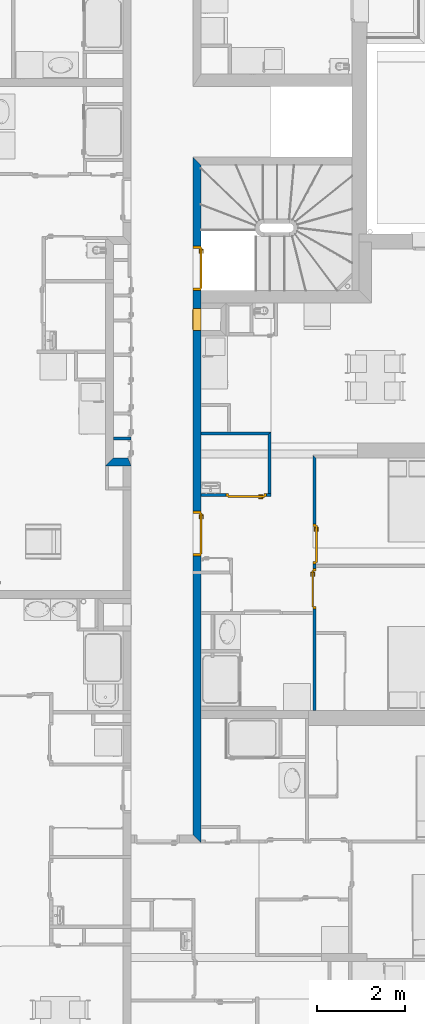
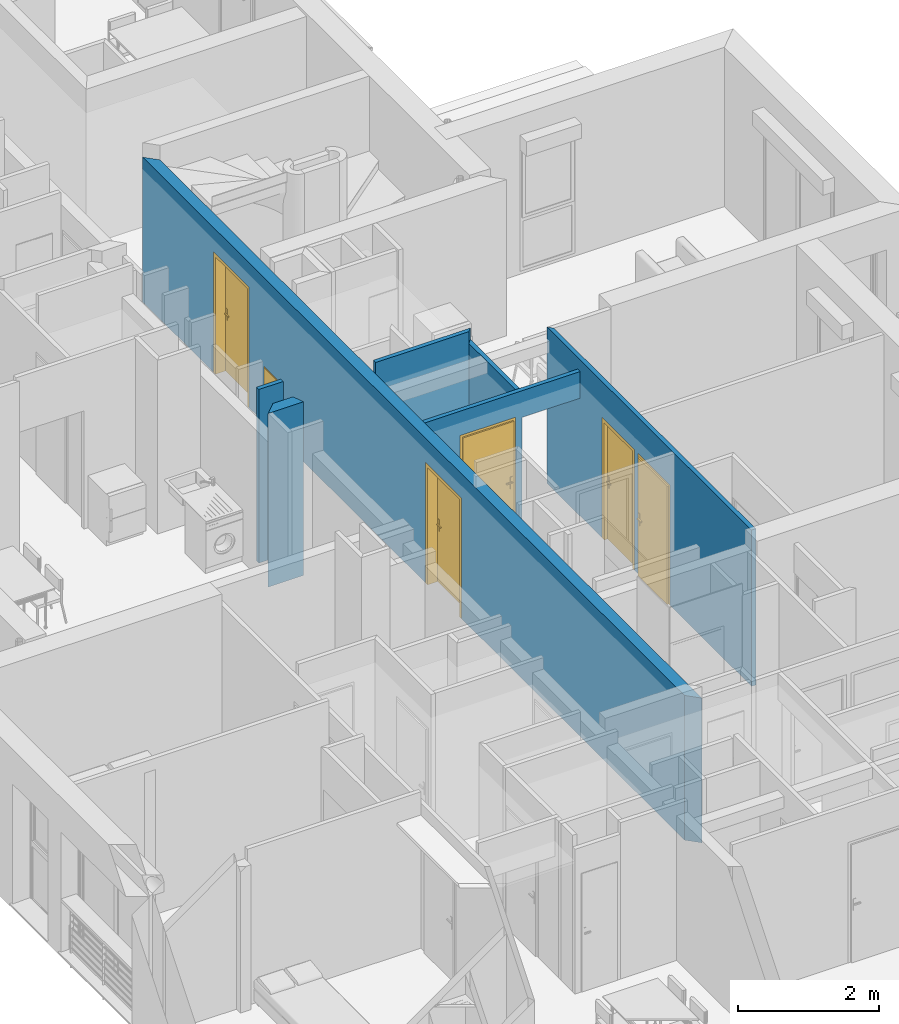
# One storey, part 22 of 164: 7 walls, 6 doors, 7 openings.
"""IFC2X3 building model written with IfcOpenShell, lengths in millimetres."""

from ifc_helpers import new_model, entity, si_unit, converted_unit, derived_unit, money_unit, direction, frame, origin_with_axes, origin_2d_with_axis, place, context, subcontext, project, spatial, polyline, rectangle, outline, extrude, faceted_brep, source, transform, mapped, material, layer, layer_set, layer_usage, type_object, element, fill, save


model = new_model("IFC2X3")

# Units and contexts
model_context = context("Model", 3, precision=0.01, world=origin_with_axes(), true_north=direction((0.0, 1.0)))
body_context = subcontext(model_context, "Body", "Model", "MODEL_VIEW")
ifc_project = project(units=[si_unit("LENGTHUNIT", "METRE", prefix="MILLI"), si_unit("AREAUNIT", "SQUARE_METRE"), si_unit("VOLUMEUNIT", "CUBIC_METRE"), converted_unit("PLANEANGLEUNIT", "DEGREE", entity("IfcPlaneAngleMeasure", 0.0174532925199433), si_unit("PLANEANGLEUNIT", "RADIAN"), dimensions=[0, 0, 0, 0, 0, 0, 0]), money_unit("USD"), converted_unit("TIMEUNIT", "Year", entity("IfcTimeMeasure", 31557600.0), si_unit("TIMEUNIT", "SECOND"), dimensions=[0, 0, 1, 0, 0, 0, 0]), si_unit("MASSUNIT", "GRAM", prefix="KILO"), si_unit("THERMODYNAMICTEMPERATUREUNIT", "DEGREE_CELSIUS"), si_unit("LUMINOUSINTENSITYUNIT", "LUMEN"), si_unit("ENERGYUNIT", "JOULE", prefix="MEGA"), derived_unit("THERMALCONDUCTANCEUNIT", [(si_unit("POWERUNIT", "WATT"), 1), (si_unit("LENGTHUNIT", "METRE"), -1), (si_unit("THERMODYNAMICTEMPERATUREUNIT", "KELVIN"), -1)]), derived_unit("SPECIFICHEATCAPACITYUNIT", [(si_unit("ENERGYUNIT", "JOULE"), 1), (si_unit("MASSUNIT", "GRAM", prefix="KILO"), -1), (si_unit("THERMODYNAMICTEMPERATUREUNIT", "KELVIN"), -1)]), derived_unit("MASSDENSITYUNIT", [(si_unit("MASSUNIT", "GRAM", prefix="KILO"), 1), (si_unit("VOLUMEUNIT", "CUBIC_METRE"), -1)])], contexts=[model_context])

# Site, building, storey
site_placement = place(None, origin_with_axes())
site = spatial("IfcSite", under=ifc_project, at=site_placement, Name="Site", CompositionType="ELEMENT")
building_placement = place(site_placement, origin_with_axes())
building = spatial("IfcBuilding", under=site, at=building_placement, Name="Bâtiment", CompositionType="ELEMENT")
storey_placement = place(building_placement, frame((0.0, 0.0, 5750.0), z_axis=(0.0, 0.0, 1.0), x_axis=(1.0, 0.0, 0.0)))
storey = spatial("IfcBuildingStorey", under=building, at=storey_placement, Name="Etage1", CompositionType="ELEMENT", Elevation=5750.0)

# Wall
ifc_material_1 = material(Name="Parpaing 314940890")
ifc_layer_1 = layer(ifc_material_1, 180.0, ventilated="UNKNOWN")
ifc_layer_set_1 = layer_set([ifc_layer_1], Name="Beton  18 0018356637")
ifc_layer_usage_1 = layer_usage(ifc_layer_set_1, "AXIS2", "NEGATIVE", 0.0)
wall_type_1 = type_object("IfcWallType", Name="Beton  18 0018356637 180", PredefinedType="NOTDEFINED")
wall_1_placement = place(storey_placement, frame((2224312.398997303, -641196.7399761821, 0.0), z_axis=(0.0, 0.0, 1.0), x_axis=(-0.9999999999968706, 2.501772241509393e-06, 0.0)))
element("IfcWallStandardCase", 1, at=wall_1_placement, inside=storey, type_object=wall_type_1, material=ifc_layer_usage_1, Name="Mur-142", context=body_context, shape_type="SweptSolid", body=[
    extrude(outline(polyline([(70.00008822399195, -179.9999999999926), (399.9993267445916, -179.9999999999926), (579.9988764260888, 0.0), (-0.000310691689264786, 0.0), (70.00008822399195, -179.9999999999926)])), origin_with_axes(), (0.0, 0.0, 1.0), 3000.0),
])

# Wall, openings, doors
ifc_layer_usage_2 = layer_usage(ifc_layer_set_1, "AXIS2", "POSITIVE", 0.0)
wall_2_placement = place(storey_placement, frame((2225712.318356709, -634393.514679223, 0.0), z_axis=(0.0, 0.0, 1.0), x_axis=(0.0, -1.0, 0.0)))
wall_2 = element("IfcWallStandardCase", 2, at=wall_2_placement, inside=storey, type_object=wall_type_1, material=ifc_layer_usage_2, Name="Mur-143", context=body_context, shape_type="SweptSolid", body=[
    extrude(outline(polyline([(-180.000000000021, 0.0), (15156.07795660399, 0.0), (15336.077956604, 179.99999999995), (0.0, 179.99999999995), (-180.000000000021, 0.0)])), origin_with_axes(), (0.0, 0.0, 1.0), 2500.000000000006),
])
opening_1_placement = place(wall_2_placement, frame((8334.59739808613, 0.0, 0.0), z_axis=(0.0, 0.0, 1.0), x_axis=(1.0, 0.0, 0.0)))
opening_1 = element("IfcOpeningElement", 3, at=opening_1_placement, cuts=wall_2, Name="Por-299", context=body_context, shape_type="SweptSolid", body=[
    extrude(rectangle(XDim=1010.00001192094, YDim=2080.0, at=origin_2d_with_axis()), frame((5.960473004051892e-06, -179.99999999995, 1040.0), z_axis=(0.0, 1.0, 0.0), x_axis=(1.0, 0.0, 0.0)), (0.0, 0.0, 1.0), 360.0),
])
opening_2_placement = place(wall_2_placement, frame((2332.186197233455, 2.273736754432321e-10, 0.0), z_axis=(0.0, 0.0, 1.0), x_axis=(1.0, 0.0, 0.0)))
opening_2 = element("IfcOpeningElement", 4, at=opening_2_placement, cuts=wall_2, Name="Por-295", context=body_context, shape_type="SweptSolid", body=[
    extrude(rectangle(XDim=1010.00001192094, YDim=2080.0, at=origin_2d_with_axis()), frame((5.960473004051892e-06, -179.99999999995, 1040.0), z_axis=(0.0, 1.0, 0.0), x_axis=(1.0, 0.0, 0.0)), (0.0, 0.0, 1.0), 360.0),
])
opening_3_placement = place(wall_2_placement, frame((3494.863080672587, 1.13686837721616e-10, 299.9999999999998), z_axis=(0.0, 0.0, 1.0), x_axis=(1.0, 0.0, 0.0)))
opening_3 = element("IfcOpeningElement", 5, at=opening_3_placement, cuts=wall_2, Name="Por-236", context=body_context, shape_type="SweptSolid", body=[
    extrude(rectangle(XDim=489.9999985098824, YDim=669.9999999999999, at=origin_2d_with_axis()), frame((-7.450609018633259e-07, 179.99999999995, 334.9999999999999), z_axis=(0.0, 1.0, 0.0), x_axis=(1.0, 0.0, 0.0)), (0.0, 0.0, -1.0), 360.0),
])
door_style = type_object("IfcDoorStyle", Name="Porte_1v", ConstructionType="NOTDEFINED", OperationType="NOTDEFINED", ParameterTakesPrecedence=False, Sizeable=False)
shared_shape_1 = source(origin_with_axes(), body_context, "Body", "Brep", [
    faceted_brep([(504.9999999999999, 0.0, 0.0), (464.9999999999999, 0.0, 0.0), (464.9999999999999, 0.0, 2040.0), (-464.9999999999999, 0.0, 2040.0), (-464.9999999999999, 0.0, 0.0), (-504.9999999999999, 0.0, 0.0), (-504.9999999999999, 0.0, 2080.0), (504.9999999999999, 0.0, 2080.0), (504.9999999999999, -180.0, 0.0), (449.9999999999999, -180.0, 0.0), (449.9999999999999, -15.0, 0.0), (464.9999999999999, -15.0, 0.0), (464.9999999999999, -15.0, 2040.0), (-464.9999999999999, -15.0, 2040.0), (-464.9999999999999, -15.0, 0.0), (-449.9999999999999, -15.0, 0.0), (-449.9999999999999, -180.0, 0.0), (-504.9999999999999, -180.0, 0.0), (-504.9999999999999, -180.0, 2080.0), (504.9999999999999, -180.0, 2080.0), (-449.9999999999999, -180.0, 2025.0), (449.9999999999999, -180.0, 2025.0), (449.9999999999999, -15.0, 2025.0), (-449.9999999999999, -15.0, 2025.0)], [[[0, 1, 2, 3, 4, 5, 6, 7]], [[0, 8, 9, 10, 11, 1]], [[1, 11, 12, 2]], [[2, 12, 13, 3]], [[3, 13, 14, 4]], [[5, 4, 14, 15, 16, 17]], [[18, 6, 5, 17]], [[19, 7, 6, 18]], [[8, 0, 7, 19]], [[9, 8, 19, 18, 17, 16, 20, 21]], [[10, 9, 21, 22]], [[11, 10, 22, 23, 15, 14, 13, 12]], [[23, 20, 16, 15]], [[22, 21, 20, 23]]]),
    faceted_brep([(-399.9999999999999, -15.0, 900.0), (-439.9999999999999, -15.0, 900.0), (-439.9999999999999, -15.0, 1100.0), (-399.9999999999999, -15.0, 1100.0), (-399.9999999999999, -25.0, 900.0), (-439.9999999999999, -25.0, 900.0), (-439.9999999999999, -25.0, 1100.0), (-399.9999999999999, -25.0, 1100.0)], [[[0, 1, 2, 3]], [[1, 0, 4, 5]], [[2, 1, 5, 6]], [[3, 2, 6, 7]], [[0, 3, 7, 4]], [[5, 4, 7, 6]]]),
    faceted_brep([(-329.9999999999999, -25.0, 1000.0), (-429.9999999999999, -25.0, 1000.0), (-429.9999999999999, -25.0, 1020.0), (-329.9999999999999, -25.0, 1020.0), (-329.9999999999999, -44.99999999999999, 1000.0), (-429.9999999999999, -44.99999999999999, 1000.0), (-429.9999999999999, -44.99999999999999, 1020.0), (-329.9999999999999, -44.99999999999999, 1020.0)], [[[0, 1, 2, 3]], [[1, 0, 4, 5]], [[2, 1, 5, 6]], [[3, 2, 6, 7]], [[0, 3, 7, 4]], [[5, 4, 7, 6]]]),
    faceted_brep([(-399.9999999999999, 34.99999999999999, 900.0), (-439.9999999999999, 34.99999999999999, 900.0), (-439.9999999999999, 34.99999999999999, 1100.0), (-399.9999999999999, 34.99999999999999, 1100.0), (-399.9999999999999, 25.0, 900.0), (-439.9999999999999, 25.0, 900.0), (-439.9999999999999, 25.0, 1100.0), (-399.9999999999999, 25.0, 1100.0)], [[[0, 1, 2, 3]], [[1, 0, 4, 5]], [[2, 1, 5, 6]], [[3, 2, 6, 7]], [[0, 3, 7, 4]], [[5, 4, 7, 6]]]),
    faceted_brep([(-329.9999999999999, 55.0, 1000.0), (-429.9999999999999, 55.0, 1000.0), (-429.9999999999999, 55.0, 1020.0), (-329.9999999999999, 55.0, 1020.0), (-329.9999999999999, 34.99999999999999, 1000.0), (-429.9999999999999, 34.99999999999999, 1000.0), (-429.9999999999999, 34.99999999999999, 1020.0), (-329.9999999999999, 34.99999999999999, 1020.0)], [[[0, 1, 2, 3]], [[1, 0, 4, 5]], [[2, 1, 5, 6]], [[3, 2, 6, 7]], [[0, 3, 7, 4]], [[5, 4, 7, 6]]]),
    faceted_brep([(-464.9999999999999, 25.0, 0.0), (464.9999999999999, 25.0, 0.0), (464.9999999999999, -15.0, 0.0), (-464.9999999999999, -15.0, 0.0), (-464.9999999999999, 25.0, 2040.0), (464.9999999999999, 25.0, 2040.0), (464.9999999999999, -15.0, 2040.0), (-464.9999999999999, -15.0, 2040.0)], [[[0, 1, 2, 3]], [[0, 4, 5, 1]], [[1, 5, 6, 2]], [[3, 2, 6, 7]], [[4, 0, 3, 7]], [[5, 4, 7, 6]]]),
])
door_1_placement = place(opening_1_placement, frame((-464.9999999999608, 0.0, 0.0), z_axis=(0.0, 0.0, 1.0), x_axis=(1.0, 0.0, 0.0)))
door_1 = element("IfcDoor", 6, at=door_1_placement, inside=storey, type_object=door_style, Name="Por-299", OverallHeight=2040.0, OverallWidth=930.0, context=body_context, shape_type="MappedRepresentation", body=[
    mapped(shared_shape_1, transform((465.0000000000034, 180.0000000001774, 0.0))),
])
fill(opening_1, door_1)
door_2_placement = place(opening_2_placement, frame((-465.0000000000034, 2.273736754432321e-10, 0.0), z_axis=(0.0, 0.0, 1.0), x_axis=(1.0, 0.0, 0.0)))
door_2 = element("IfcDoor", 7, at=door_2_placement, inside=storey, type_object=door_style, Name="Por-295", OverallHeight=2040.0, OverallWidth=930.0, context=body_context, shape_type="MappedRepresentation", body=[
    mapped(shared_shape_1, transform((465.0000000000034, 180.0000000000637, 0.0))),
])
fill(opening_2, door_2)
shared_shape_2 = source(origin_with_axes(), body_context, "Body", "Brep", [
    faceted_brep([(-245.0, 0.0, 0.0), (-245.0, 0.0, 670.0), (245.0, 0.0, 670.0), (245.0, 0.0, 0.0), (225.0, 0.0, 0.0), (225.0, 0.0, 650.0), (-225.0, 0.0, 650.0), (-225.0, 0.0, 0.0), (-245.0, -180.0, 0.0), (-245.0, -180.0, 670.0), (245.0, -180.0, 670.0), (245.0, -180.0, 0.0), (210.0, -180.0, 0.0), (210.0, -15.0, 0.0), (225.0, -15.0, 0.0), (225.0, -15.0, 650.0), (-225.0, -15.0, 650.0), (-225.0, -15.0, 0.0), (-210.0, -15.0, 0.0), (-210.0, -180.0, 0.0), (-210.0, -180.0, 635.0), (210.0, -180.0, 635.0), (210.0, -15.0, 635.0), (-210.0, -15.0, 635.0)], [[[0, 1, 2, 3, 4, 5, 6, 7]], [[8, 9, 1, 0]], [[9, 10, 2, 1]], [[10, 11, 3, 2]], [[3, 11, 12, 13, 14, 4]], [[5, 4, 14, 15]], [[6, 5, 15, 16]], [[7, 6, 16, 17]], [[0, 7, 17, 18, 19, 8]], [[19, 20, 21, 12, 11, 10, 9, 8]], [[22, 13, 12, 21]], [[17, 16, 15, 14, 13, 22, 23, 18]], [[18, 23, 20, 19]], [[23, 22, 21, 20]]]),
    faceted_brep([(225.0, 5.000000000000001, 0.0), (225.0, -15.0, 0.0), (-225.0, -15.0, 0.0), (-225.0, 5.000000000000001, 0.0), (225.0, 5.000000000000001, 650.0), (225.0, -15.0, 650.0), (-225.0, -15.0, 650.0), (-225.0, 5.000000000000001, 650.0)], [[[0, 1, 2, 3]], [[4, 5, 1, 0]], [[1, 5, 6, 2]], [[3, 2, 6, 7]], [[0, 3, 7, 4]], [[7, 6, 5, 4]]]),
])
door_3_placement = place(opening_3_placement, frame((224.9999999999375, 1.13686837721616e-10, 0.0), z_axis=(0.0, 0.0, 1.0), x_axis=(-1.0, 0.0, 0.0)))
door_3 = element("IfcDoor", 8, at=door_3_placement, inside=storey, type_object=door_style, Name="Por-236", OverallHeight=650.0, OverallWidth=450.0, context=body_context, shape_type="MappedRepresentation", body=[
    mapped(shared_shape_2, transform((224.9999999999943, -1.13686837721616e-10, 0.0))),
])
fill(opening_3, door_3)

# Wall
ifc_material_2 = material(Name="Hachure solide 268963992")
ifc_layer_2 = layer(ifc_material_2, 70.0, ventilated="UNKNOWN")
ifc_layer_set_2 = layer_set([ifc_layer_2], Name="Cloison 70 0826278243")
ifc_layer_usage_3 = layer_usage(ifc_layer_set_2, "AXIS2", "NEGATIVE", 0.0)
wall_type_2 = type_object("IfcWallType", Name="Cloison 70 0826278243 70", PredefinedType="NOTDEFINED")
wall_3_placement = place(storey_placement, frame((2223732.399920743, -640549.3889911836, 0.0), z_axis=(0.0, 0.0, 1.0), x_axis=(1.0, 0.0, 0.0)))
element("IfcWallStandardCase", 9, at=wall_3_placement, inside=storey, type_object=wall_type_2, material=ifc_layer_usage_3, Name="Mur-121", context=body_context, shape_type="SweptSolid", body=[
    extrude(outline(polyline([(180.0002001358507, -69.99999999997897), (580.0522801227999, -69.99999999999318), (580.0522801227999, 0.0), (180.0002001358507, 0.0), (180.0002001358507, -69.99999999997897)])), origin_with_axes(), (0.0, 0.0, 1.0), 3000.0),
])

# Wall, openings, doors
ifc_layer_usage_4 = layer_usage(ifc_layer_set_2, "AXIS2", "POSITIVE", -70.0)
wall_4_placement = place(storey_placement, frame((2228430.650386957, -646738.4413036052, 0.0), z_axis=(0.0, 0.0, 1.0), x_axis=(0.0, 1.0, 0.0)))
wall_4 = element("IfcWallStandardCase", 10, at=wall_4_placement, inside=storey, type_object=wall_type_2, material=ifc_layer_usage_4, Name="Mur-149", context=body_context, shape_type="SweptSolid", body=[
    extrude(outline(polyline([(0.0, -70.00000000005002), (5713.115765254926, -70.00000000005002), (5783.115765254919, 0.0), (0.0, 0.0), (0.0, -70.00000000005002)])), origin_with_axes(), (0.0, 0.0, 1.0), 2700.0),
])
opening_4_placement = place(wall_4_placement, frame((2760.067166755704, 2.273736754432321e-10, 0.0), z_axis=(0.0, 0.0, 1.0), x_axis=(1.0, 0.0, 0.0)))
opening_4 = element("IfcOpeningElement", 11, at=opening_4_placement, cuts=wall_4, Name="Por-275", context=body_context, shape_type="SweptSolid", body=[
    extrude(rectangle(XDim=910.0, YDim=2080.0, at=origin_2d_with_axis()), frame((0.0, -70.00000000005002, 1040.0), z_axis=(0.0, -1.0, 0.0), x_axis=(-1.0, 0.0, 0.0)), (0.0, 0.0, -1.0), 140.0),
])
opening_5_placement = place(wall_4_placement, frame((3770.831341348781, 2.273736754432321e-10, 0.0), z_axis=(0.0, 0.0, 1.0), x_axis=(1.0, 0.0, 0.0)))
opening_5 = element("IfcOpeningElement", 12, at=opening_5_placement, cuts=wall_4, Name="Por-276", context=body_context, shape_type="SweptSolid", body=[
    extrude(rectangle(XDim=910.0, YDim=2080.0, at=origin_2d_with_axis()), frame((0.0, 70.00000000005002, 1040.0), z_axis=(0.0, -1.0, 0.0), x_axis=(-1.0, 0.0, 0.0)), (0.0, 0.0, 1.0), 140.0),
])
shared_shape_3 = source(origin_with_axes(), body_context, "Body", "Brep", [
    faceted_brep([(455.0, 0.0, 0.0), (415.0000000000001, 0.0, 0.0), (415.0000000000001, 0.0, 2040.0), (-415.0000000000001, 0.0, 2040.0), (-415.0000000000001, 0.0, 0.0), (-455.0, 0.0, 0.0), (-455.0, 0.0, 2080.0), (455.0, 0.0, 2080.0), (455.0, -70.0, 0.0), (400.0, -70.0, 0.0), (400.0, -15.0, 0.0), (415.0000000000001, -15.0, 0.0), (415.0000000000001, -15.0, 2040.0), (-415.0000000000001, -15.0, 2040.0), (-415.0000000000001, -15.0, 0.0), (-400.0, -15.0, 0.0), (-400.0, -70.0, 0.0), (-455.0, -70.0, 0.0), (-455.0, -70.0, 2080.0), (455.0, -70.0, 2080.0), (-400.0, -70.0, 2025.0), (400.0, -70.0, 2025.0), (400.0, -15.0, 2025.0), (-400.0, -15.0, 2025.0)], [[[0, 1, 2, 3, 4, 5, 6, 7]], [[0, 8, 9, 10, 11, 1]], [[1, 11, 12, 2]], [[2, 12, 13, 3]], [[3, 13, 14, 4]], [[5, 4, 14, 15, 16, 17]], [[18, 6, 5, 17]], [[19, 7, 6, 18]], [[8, 0, 7, 19]], [[9, 8, 19, 18, 17, 16, 20, 21]], [[10, 9, 21, 22]], [[11, 10, 22, 23, 15, 14, 13, 12]], [[23, 20, 16, 15]], [[22, 21, 20, 23]]]),
    faceted_brep([(-350.0000000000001, -15.0, 900.0), (-390.0, -15.0, 900.0), (-390.0, -15.0, 1100.0), (-350.0000000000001, -15.0, 1100.0), (-350.0000000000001, -25.0, 900.0), (-390.0, -25.0, 900.0), (-390.0, -25.0, 1100.0), (-350.0000000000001, -25.0, 1100.0)], [[[0, 1, 2, 3]], [[1, 0, 4, 5]], [[2, 1, 5, 6]], [[3, 2, 6, 7]], [[0, 3, 7, 4]], [[5, 4, 7, 6]]]),
    faceted_brep([(-280.0, -25.0, 1000.0), (-380.0, -25.0, 1000.0), (-380.0, -25.0, 1020.0), (-280.0, -25.0, 1020.0), (-280.0, -45.0, 1000.0), (-380.0, -45.0, 1000.0), (-380.0, -45.0, 1020.0), (-280.0, -45.0, 1020.0)], [[[0, 1, 2, 3]], [[1, 0, 4, 5]], [[2, 1, 5, 6]], [[3, 2, 6, 7]], [[0, 3, 7, 4]], [[5, 4, 7, 6]]]),
    faceted_brep([(-350.0000000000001, 35.0, 900.0), (-390.0, 35.0, 900.0), (-390.0, 35.0, 1100.0), (-350.0000000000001, 35.0, 1100.0), (-350.0000000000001, 25.0, 900.0), (-390.0, 25.0, 900.0), (-390.0, 25.0, 1100.0), (-350.0000000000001, 25.0, 1100.0)], [[[0, 1, 2, 3]], [[1, 0, 4, 5]], [[2, 1, 5, 6]], [[3, 2, 6, 7]], [[0, 3, 7, 4]], [[5, 4, 7, 6]]]),
    faceted_brep([(-280.0, 55.00000000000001, 1000.0), (-380.0, 55.00000000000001, 1000.0), (-380.0, 55.00000000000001, 1020.0), (-280.0, 55.00000000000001, 1020.0), (-280.0, 35.0, 1000.0), (-380.0, 35.0, 1000.0), (-380.0, 35.0, 1020.0), (-280.0, 35.0, 1020.0)], [[[0, 1, 2, 3]], [[1, 0, 4, 5]], [[2, 1, 5, 6]], [[3, 2, 6, 7]], [[0, 3, 7, 4]], [[5, 4, 7, 6]]]),
    faceted_brep([(-415.0000000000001, 25.0, 0.0), (415.0000000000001, 25.0, 0.0), (415.0000000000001, -15.0, 0.0), (-415.0000000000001, -15.0, 0.0), (-415.0000000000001, 25.0, 2040.0), (415.0000000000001, 25.0, 2040.0), (415.0000000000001, -15.0, 2040.0), (-415.0000000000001, -15.0, 2040.0)], [[[0, 1, 2, 3]], [[0, 4, 5, 1]], [[1, 5, 6, 2]], [[3, 2, 6, 7]], [[4, 0, 3, 7]], [[5, 4, 7, 6]]]),
])
door_4_placement = place(opening_5_placement, frame((415.0000000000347, 2.273736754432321e-10, 0.0), z_axis=(0.0, 0.0, 1.0), x_axis=(-1.0, 0.0, 0.0)))
door_4 = element("IfcDoor", 13, at=door_4_placement, inside=storey, type_object=door_style, Name="Por-276", OverallHeight=2040.0, OverallWidth=830.0, context=body_context, shape_type="MappedRepresentation", body=[
    mapped(shared_shape_3, transform((415.0000000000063, 70.00000000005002, 0.0))),
])
fill(opening_5, door_4)
shared_shape_4 = source(origin_with_axes(), body_context, "Body", "Brep", [
    faceted_brep([(-454.9999999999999, 0.0, 0.0), (-454.9999999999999, 0.0, 2080.0), (454.9999999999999, 0.0, 2080.0), (454.9999999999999, 0.0, 0.0), (414.9999999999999, 0.0, 0.0), (414.9999999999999, 0.0, 2040.0), (-414.9999999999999, 0.0, 2040.0), (-414.9999999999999, 0.0, 0.0), (-454.9999999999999, -69.99999999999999, 0.0), (-454.9999999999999, -69.99999999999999, 2080.0), (454.9999999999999, -69.99999999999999, 2080.0), (454.9999999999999, -69.99999999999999, 0.0), (399.9999999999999, -69.99999999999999, 0.0), (399.9999999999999, -15.0, 0.0), (414.9999999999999, -15.0, 0.0), (414.9999999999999, -15.0, 2040.0), (-414.9999999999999, -14.99999999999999, 2040.0), (-414.9999999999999, -14.99999999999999, 0.0), (-399.9999999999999, -14.99999999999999, 0.0), (-399.9999999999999, -69.99999999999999, 0.0), (-399.9999999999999, -69.99999999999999, 2025.0), (399.9999999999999, -69.99999999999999, 2025.0), (399.9999999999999, -15.0, 2025.0), (-399.9999999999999, -14.99999999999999, 2025.0)], [[[0, 1, 2, 3, 4, 5, 6, 7]], [[8, 9, 1, 0]], [[9, 10, 2, 1]], [[10, 11, 3, 2]], [[3, 11, 12, 13, 14, 4]], [[5, 4, 14, 15]], [[6, 5, 15, 16]], [[7, 6, 16, 17]], [[0, 7, 17, 18, 19, 8]], [[19, 20, 21, 12, 11, 10, 9, 8]], [[22, 13, 12, 21]], [[17, 16, 15, 14, 13, 22, 23, 18]], [[18, 23, 20, 19]], [[23, 22, 21, 20]]]),
    faceted_brep([(350.0, -15.0, 900.0), (350.0, -15.0, 1100.0), (389.9999999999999, -15.0, 1100.0), (389.9999999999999, -15.0, 900.0), (350.0, -25.0, 900.0), (350.0, -25.0, 1100.0), (389.9999999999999, -25.0, 1100.0), (389.9999999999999, -25.0, 900.0)], [[[0, 1, 2, 3]], [[0, 4, 5, 1]], [[1, 5, 6, 2]], [[2, 6, 7, 3]], [[3, 7, 4, 0]], [[7, 6, 5, 4]]]),
    faceted_brep([(279.9999999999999, -25.0, 1000.0), (279.9999999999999, -25.0, 1020.0), (379.9999999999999, -25.0, 1020.0), (379.9999999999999, -25.0, 1000.0), (279.9999999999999, -45.0, 1000.0), (279.9999999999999, -45.0, 1020.0), (379.9999999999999, -45.0, 1020.0), (379.9999999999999, -45.0, 1000.0)], [[[0, 1, 2, 3]], [[0, 4, 5, 1]], [[1, 5, 6, 2]], [[2, 6, 7, 3]], [[3, 7, 4, 0]], [[7, 6, 5, 4]]]),
    faceted_brep([(350.0, 34.99999999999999, 900.0), (350.0, 34.99999999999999, 1100.0), (389.9999999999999, 34.99999999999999, 1100.0), (389.9999999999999, 34.99999999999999, 900.0), (350.0, 24.99999999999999, 900.0), (350.0, 24.99999999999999, 1100.0), (389.9999999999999, 24.99999999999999, 1100.0), (389.9999999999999, 24.99999999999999, 900.0)], [[[0, 1, 2, 3]], [[0, 4, 5, 1]], [[1, 5, 6, 2]], [[2, 6, 7, 3]], [[3, 7, 4, 0]], [[7, 6, 5, 4]]]),
    faceted_brep([(279.9999999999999, 54.99999999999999, 1000.0), (279.9999999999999, 54.99999999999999, 1020.0), (379.9999999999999, 54.99999999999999, 1020.0), (379.9999999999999, 54.99999999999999, 1000.0), (279.9999999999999, 34.99999999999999, 1000.0), (279.9999999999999, 34.99999999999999, 1020.0), (379.9999999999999, 34.99999999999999, 1020.0), (379.9999999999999, 34.99999999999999, 1000.0)], [[[0, 1, 2, 3]], [[0, 4, 5, 1]], [[1, 5, 6, 2]], [[2, 6, 7, 3]], [[3, 7, 4, 0]], [[7, 6, 5, 4]]]),
    faceted_brep([(414.9999999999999, 24.99999999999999, 0.0), (414.9999999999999, -15.0, 0.0), (-414.9999999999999, -14.99999999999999, 0.0), (-414.9999999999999, 25.0, 0.0), (414.9999999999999, 24.99999999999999, 2040.0), (414.9999999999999, -15.0, 2040.0), (-414.9999999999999, -14.99999999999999, 2040.0), (-414.9999999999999, 25.0, 2040.0)], [[[0, 1, 2, 3]], [[4, 5, 1, 0]], [[1, 5, 6, 2]], [[3, 2, 6, 7]], [[0, 3, 7, 4]], [[7, 6, 5, 4]]]),
])
door_5_placement = place(opening_4_placement, frame((-414.9999999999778, 2.273736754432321e-10, 0.0), z_axis=(0.0, 0.0, 1.0), x_axis=(1.0, 0.0, 0.0)))
door_5 = element("IfcDoor", 14, at=door_5_placement, inside=storey, type_object=door_style, Name="Por-275", OverallHeight=2040.0, OverallWidth=830.0, context=body_context, shape_type="MappedRepresentation", body=[
    mapped(shared_shape_4, transform((415.0000000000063, 0.0, 0.0))),
])
fill(opening_4, door_5)

# Wall
ifc_layer_usage_5 = layer_usage(ifc_layer_set_2, "AXIS2", "NEGATIVE", 70.0)
wall_5_placement = place(storey_placement, frame((2227412.318356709, -640498.9119494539, 0.0), z_axis=(0.0, 0.0, 1.0), x_axis=(0.0, -1.0, 0.0)))
element("IfcWallStandardCase", 15, at=wall_5_placement, inside=storey, type_object=wall_type_2, material=ifc_layer_usage_5, Name="Mur-149", context=body_context, shape_type="SweptSolid", body=[
    extrude(outline(polyline([(0.0, 0.0), (1320.69319571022, 0.0), (1320.69319571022, 70.00000000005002), (-69.99999999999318, 70.00000000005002), (0.0, 0.0)])), origin_with_axes(), (0.0, 0.0, 1.0), 2500.0),
])

# Wall, openings, door
ifc_layer_usage_6 = layer_usage(ifc_layer_set_2, "AXIS2", "NEGATIVE", 70.0)
wall_6_placement = place(storey_placement, frame((2225712.318356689, -641889.605145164, 0.0), z_axis=(0.0, 0.0, 1.0), x_axis=(1.0, 0.0, 0.0)))
wall_6 = element("IfcWallStandardCase", 16, at=wall_6_placement, inside=storey, type_object=wall_type_2, material=ifc_layer_usage_6, Name="Mur-149", context=body_context, shape_type="SweptSolid", body=[
    extrude(outline(polyline([(180.0000000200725, 0.0), (2718.332030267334, 0.0), (2718.332030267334, 69.99999999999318), (180.0000000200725, 69.99999999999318), (180.0000000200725, 0.0)])), origin_with_axes(), (0.0, 0.0, 1.0), 2500.0),
])
opening_6_placement = place(wall_6_placement, frame((1206.62019077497, 0.0, 0.0), z_axis=(0.0, 0.0, 1.0), x_axis=(1.0, 0.0, 0.0)))
opening_6 = element("IfcOpeningElement", 17, at=opening_6_placement, cuts=wall_6, Name="Por-278", context=body_context, shape_type="SweptSolid", body=[
    extrude(rectangle(XDim=910.0, YDim=2080.0, at=origin_2d_with_axis()), frame((0.0, 69.99999999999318, 1040.0), z_axis=(0.0, -1.0, 0.0), x_axis=(-1.0, 0.0, 0.0)), (0.0, 0.0, 1.0), 140.0),
])
opening_7_placement = place(wall_6_placement, frame((2244.166015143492, 0.0, 0.0), z_axis=(0.0, 0.0, 1.0), x_axis=(1.0, 0.0, 0.0)))
element("IfcOpeningElement", 18, at=opening_7_placement, cuts=wall_6, Name="Por-278", context=body_context, shape_type="SweptSolid", body=[
    extrude(rectangle(XDim=948.332030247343, YDim=2040.0, at=origin_2d_with_axis()), frame((0.0, 69.99999999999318, 1020.0), z_axis=(0.0, -1.0, 0.0), x_axis=(1.0, 0.0, 0.0)), (0.0, 0.0, -1.0), 70.0),
    extrude(rectangle(XDim=948.332030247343, YDim=2040.0, at=origin_2d_with_axis()), frame((0.0, 69.99999999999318, 1020.0), z_axis=(0.0, 1.0, 0.0), x_axis=(1.0, 0.0, 0.0)), (0.0, 0.0, -1.0), 70.0),
])
shared_shape_5 = source(origin_with_axes(), body_context, "Body", "Brep", [
    faceted_brep([(454.9999999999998, 0.0, 0.0), (414.9999999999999, 0.0, 0.0), (414.9999999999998, 0.0, 2040.0), (-414.9999999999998, 0.0, 2040.0), (-414.9999999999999, 0.0, 0.0), (-454.9999999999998, 0.0, 0.0), (-454.9999999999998, 0.0, 2080.0), (454.9999999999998, 0.0, 2080.0), (454.9999999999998, -69.99999999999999, 0.0), (399.9999999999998, -69.99999999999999, 0.0), (399.9999999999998, -15.0, 0.0), (414.9999999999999, -15.0, 0.0), (414.9999999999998, -15.0, 2040.0), (-414.9999999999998, -15.0, 2040.0), (-414.9999999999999, -15.0, 0.0), (-399.9999999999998, -15.0, 0.0), (-399.9999999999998, -69.99999999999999, 0.0), (-454.9999999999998, -69.99999999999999, 0.0), (-454.9999999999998, -69.99999999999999, 2080.0), (454.9999999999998, -69.99999999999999, 2080.0), (-399.9999999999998, -69.99999999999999, 2025.0), (399.9999999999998, -69.99999999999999, 2025.0), (399.9999999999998, -15.0, 2025.0), (-399.9999999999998, -15.0, 2025.0)], [[[0, 1, 2, 3, 4, 5, 6, 7]], [[0, 8, 9, 10, 11, 1]], [[1, 11, 12, 2]], [[2, 12, 13, 3]], [[3, 13, 14, 4]], [[5, 4, 14, 15, 16, 17]], [[18, 6, 5, 17]], [[19, 7, 6, 18]], [[8, 0, 7, 19]], [[9, 8, 19, 18, 17, 16, 20, 21]], [[10, 9, 21, 22]], [[11, 10, 22, 23, 15, 14, 13, 12]], [[23, 20, 16, 15]], [[22, 21, 20, 23]]]),
    faceted_brep([(-349.9999999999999, -15.0, 900.0), (-389.9999999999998, -15.0, 900.0), (-389.9999999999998, -15.0, 1100.0), (-349.9999999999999, -15.0, 1100.0), (-349.9999999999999, -24.99999999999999, 900.0), (-389.9999999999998, -24.99999999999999, 900.0), (-389.9999999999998, -24.99999999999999, 1100.0), (-349.9999999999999, -24.99999999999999, 1100.0)], [[[0, 1, 2, 3]], [[1, 0, 4, 5]], [[2, 1, 5, 6]], [[3, 2, 6, 7]], [[0, 3, 7, 4]], [[5, 4, 7, 6]]]),
    faceted_brep([(-279.9999999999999, -24.99999999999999, 1000.0), (-379.9999999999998, -24.99999999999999, 1000.0), (-379.9999999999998, -24.99999999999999, 1020.0), (-279.9999999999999, -24.99999999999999, 1020.0), (-279.9999999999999, -44.99999999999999, 1000.0), (-379.9999999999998, -44.99999999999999, 1000.0), (-379.9999999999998, -44.99999999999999, 1020.0), (-279.9999999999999, -44.99999999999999, 1020.0)], [[[0, 1, 2, 3]], [[1, 0, 4, 5]], [[2, 1, 5, 6]], [[3, 2, 6, 7]], [[0, 3, 7, 4]], [[5, 4, 7, 6]]]),
    faceted_brep([(-349.9999999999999, 34.99999999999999, 900.0), (-389.9999999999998, 34.99999999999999, 900.0), (-389.9999999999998, 34.99999999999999, 1100.0), (-349.9999999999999, 34.99999999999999, 1100.0), (-349.9999999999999, 24.99999999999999, 900.0), (-389.9999999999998, 24.99999999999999, 900.0), (-389.9999999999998, 24.99999999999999, 1100.0), (-349.9999999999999, 24.99999999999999, 1100.0)], [[[0, 1, 2, 3]], [[1, 0, 4, 5]], [[2, 1, 5, 6]], [[3, 2, 6, 7]], [[0, 3, 7, 4]], [[5, 4, 7, 6]]]),
    faceted_brep([(-279.9999999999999, 54.99999999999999, 1000.0), (-379.9999999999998, 54.99999999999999, 1000.0), (-379.9999999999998, 54.99999999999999, 1020.0), (-279.9999999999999, 54.99999999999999, 1020.0), (-279.9999999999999, 34.99999999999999, 1000.0), (-379.9999999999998, 34.99999999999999, 1000.0), (-379.9999999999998, 34.99999999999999, 1020.0), (-279.9999999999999, 34.99999999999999, 1020.0)], [[[0, 1, 2, 3]], [[1, 0, 4, 5]], [[2, 1, 5, 6]], [[3, 2, 6, 7]], [[0, 3, 7, 4]], [[5, 4, 7, 6]]]),
    faceted_brep([(-414.9999999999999, 24.99999999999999, 0.0), (414.9999999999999, 24.99999999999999, 0.0), (414.9999999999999, -15.0, 0.0), (-414.9999999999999, -15.0, 0.0), (-414.9999999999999, 24.99999999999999, 2040.0), (414.9999999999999, 24.99999999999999, 2040.0), (414.9999999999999, -15.0, 2040.0), (-414.9999999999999, -15.0, 2040.0)], [[[0, 1, 2, 3]], [[0, 4, 5, 1]], [[1, 5, 6, 2]], [[3, 2, 6, 7]], [[4, 0, 3, 7]], [[5, 4, 7, 6]]]),
])
door_6_placement = place(opening_6_placement, frame((414.9999999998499, 0.0, 0.0), z_axis=(0.0, 0.0, 1.0), x_axis=(-1.0, 0.0, 0.0)))
door_6 = element("IfcDoor", 19, at=door_6_placement, inside=storey, type_object=door_style, Name="Por-278", OverallHeight=2040.0, OverallWidth=830.0, context=body_context, shape_type="MappedRepresentation", body=[
    mapped(shared_shape_5, transform((414.9999999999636, 0.0, 0.0))),
])
fill(opening_6, door_6)

# Wall
ifc_material_3 = material(Name="Hachure solide 269229667")
ifc_layer_3 = layer(ifc_material_3, 70.0, ventilated="UNKNOWN")
ifc_layer_set_3 = layer_set([ifc_layer_3], Name="Cloison 70 0836576958")
ifc_layer_usage_7 = layer_usage(ifc_layer_set_3, "AXIS2", "NEGATIVE", 0.0)
wall_type_3 = type_object("IfcWallType", Name="Cloison 70 0836576958 70", PredefinedType="NOTDEFINED")
wall_7_placement = place(storey_placement, frame((2227412.318356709, -640498.9119494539, 0.0), z_axis=(0.0, 0.0, 1.0), x_axis=(-1.0, 0.0, 0.0)))
element("IfcWallStandardCase", 20, at=wall_7_placement, inside=storey, type_object=wall_type_3, material=ifc_layer_usage_7, Name="Mur-148", context=body_context, shape_type="SweptSolid", body=[
    extrude(outline(polyline([(-70.00000000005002, -69.99999999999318), (1519.999999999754, -69.99999999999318), (1519.999999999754, 0.0), (0.0, 0.0), (-70.00000000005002, -69.99999999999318)])), origin_with_axes(), (0.0, 0.0, 1.0), 2700.0),
])

save(model, "model.ifc")
